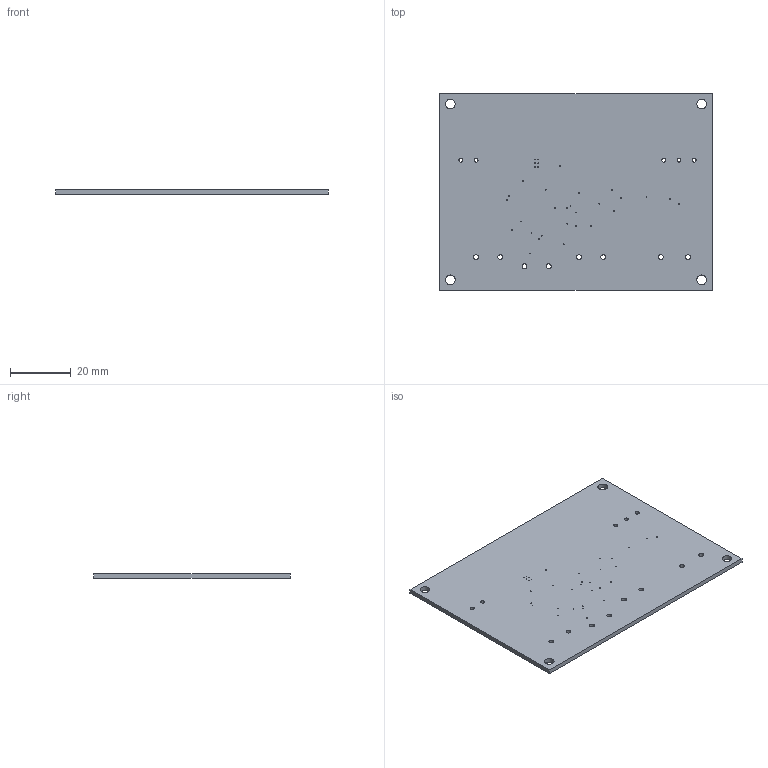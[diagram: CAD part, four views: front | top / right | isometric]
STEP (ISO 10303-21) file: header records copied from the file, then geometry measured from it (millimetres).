
FILE_DESCRIPTION(('KiCad electronic assembly'),'2;1');
FILE_NAME('CAB120-SYS08-MON01-bare.step','2026-10-07T05:47:23',('Pcbnew' ),('Kicad'),'Open CASCADE STEP processor 7.9', 'KiCad to STEP converter','Unknown');
FILE_SCHEMA(('AUTOMOTIVE_DESIGN { 1 0 10303 214 1 1 1 1 }'));
Length unit declared in the file: millimetre
Products named in the file (2): CAB120-SYS08-MON01-bare 1; CAB120-SYS08-MON01_PCB
Assembly tree (1 placements, depth 2):
  CAB120-SYS08-MON01-bare 1
    CAB120-SYS08-MON01_PCB
Bounding box: 90 x 65 x 1.51 mm (x, y, z)
Volume: 8747.4 mm3; surface area: 12250.5 mm2
Topology: 1 solids, 1 shells, 56 faces, 162 edges, 108 vertices
Faces by surface type: cylinder 50, plane 6
Full cylindrical faces by diameter (mm): 0.2 x6, 0.3 x27, 1.3 x5, 1.6 x8, 3.2 x4
Entity records: 2143 total; most frequent: DIRECTION 378, CARTESIAN_POINT 328, ORIENTED_EDGE 324, EDGE_CURVE 162, AXIS2_PLACEMENT_3D 158, FACE_BOUND 156, EDGE_LOOP 156, VERTEX_POINT 108
